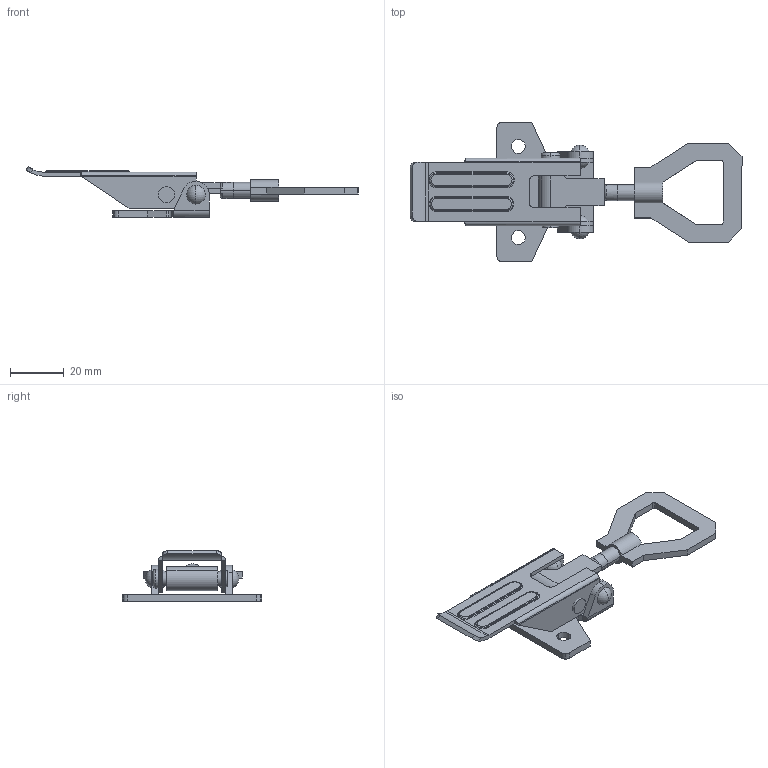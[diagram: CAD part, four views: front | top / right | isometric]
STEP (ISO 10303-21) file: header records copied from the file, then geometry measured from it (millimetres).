
FILE_DESCRIPTION((''),'2;1');
FILE_NAME('1015_.stp','2012-06-06T16:53:24',(''),(''),'Mechanical Desktop 2006','Mechanical Desktop 2006',', , ');
FILE_SCHEMA(('CONFIG_CONTROL_DESIGN'));
Length unit declared in the file: millimetre
Products named in the file (8): 1015_; NIET - DIN 660 - A 4 X 10; ~TEIL1; ~~TEIL1; ~~~TEIL1; ~~~~TEIL1; ~~~~~TEIL1; ~~~~~~TEIL1
Assembly tree (8 placements, depth 2):
  1015_
    NIET - DIN 660 - A 4 X 10  x2
    ~TEIL1
    ~~TEIL1
    ~~~TEIL1
    ~~~~TEIL1
    ~~~~~TEIL1
    ~~~~~~TEIL1
Bounding box: 123.96 x 52 x 18.92 mm (x, y, z)
Volume: 11826.3 mm3; surface area: 13876.4 mm2
Topology: 8 solids, 8 shells, 237 faces, 607 edges, 393 vertices
Faces by surface type: cylinder 116, plane 87, bspline 14, torus 12, sphere 8
Entity records: 8146 total; most frequent: CARTESIAN_POINT 2163, DIRECTION 1276, ORIENTED_EDGE 1186, EDGE_CURVE 593, AXIS2_PLACEMENT_3D 483, VERTEX_POINT 383, VECTOR 310, LINE 310
